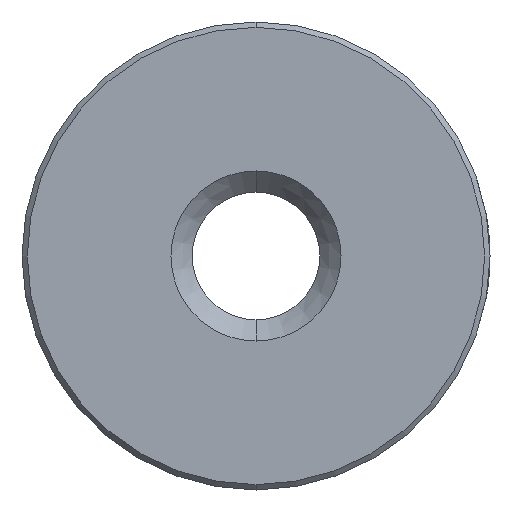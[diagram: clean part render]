
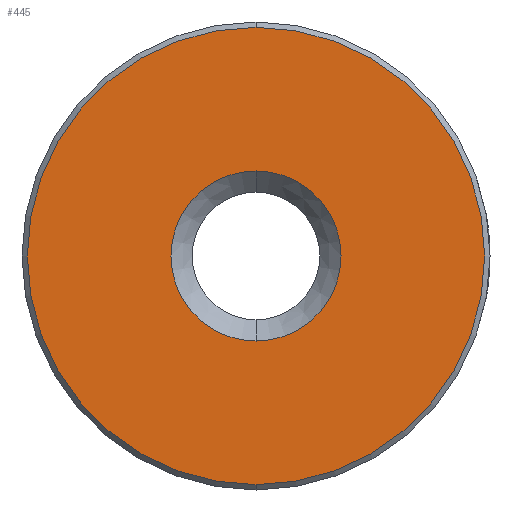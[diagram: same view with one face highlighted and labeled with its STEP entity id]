
A CAD part, front view. The second image highlights one B-rep face of the part: STEP entity #445.
In plain terms, the highlighted planar face has unit normal (0, -1, 0).
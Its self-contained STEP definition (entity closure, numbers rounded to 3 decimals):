
#9 = AXIS2_PLACEMENT_3D ( 'NONE', #702, #56, #923 ) ;
#43 = CARTESIAN_POINT ( 'NONE',  ( 0., 0., -11. ) ) ;
#52 = ORIENTED_EDGE ( 'NONE', *, *, #363, .T. ) ;
#56 = DIRECTION ( 'NONE',  ( 0., -1., 0. ) ) ;
#58 = VERTEX_POINT ( 'NONE', #888 ) ;
#121 = ORIENTED_EDGE ( 'NONE', *, *, #662, .T. ) ;
#192 = DIRECTION ( 'NONE',  ( 0., 1., 0. ) ) ;
#195 = EDGE_CURVE ( 'NONE', #950, #58, #496, .T. ) ;
#200 = AXIS2_PLACEMENT_3D ( 'NONE', #327, #887, #957 ) ;
#250 = VERTEX_POINT ( 'NONE', #698 ) ;
#276 = ORIENTED_EDGE ( 'NONE', *, *, #195, .T. ) ;
#292 = CARTESIAN_POINT ( 'NONE',  ( 0., 0., -11. ) ) ;
#321 = AXIS2_PLACEMENT_3D ( 'NONE', #43, #192, #671 ) ;
#327 = CARTESIAN_POINT ( 'NONE',  ( 0., 0., -11. ) ) ;
#331 = CIRCLE ( 'NONE', #9, 10.75 ) ;
#360 = CIRCLE ( 'NONE', #200, 4. ) ;
#363 = EDGE_CURVE ( 'NONE', #58, #950, #331, .T. ) ;
#445 = ADVANCED_FACE ( 'NONE', ( #553, #724 ), #454, .T. ) ;
#454 = PLANE ( 'NONE',  #601 ) ;
#465 = DIRECTION ( 'NONE',  ( 0., -1., 0. ) ) ;
#496 = CIRCLE ( 'NONE', #614, 10.75 ) ;
#542 = CIRCLE ( 'NONE', #321, 4. ) ;
#553 = FACE_OUTER_BOUND ( 'NONE', #639, .T. ) ;
#601 = AXIS2_PLACEMENT_3D ( 'NONE', #1005, #784, #621 ) ;
#614 = AXIS2_PLACEMENT_3D ( 'NONE', #292, #465, #1001 ) ;
#621 = DIRECTION ( 'NONE',  ( 0., 0., -1. ) ) ;
#639 = EDGE_LOOP ( 'NONE', ( #52, #276 ) ) ;
#662 = EDGE_CURVE ( 'NONE', #250, #952, #360, .T. ) ;
#671 = DIRECTION ( 'NONE',  ( 0., 0., -1. ) ) ;
#688 = CARTESIAN_POINT ( 'NONE',  ( 0., 0., -21.75 ) ) ;
#698 = CARTESIAN_POINT ( 'NONE',  ( 0., 0., -15. ) ) ;
#702 = CARTESIAN_POINT ( 'NONE',  ( 0., 0., -11. ) ) ;
#724 = FACE_BOUND ( 'NONE', #783, .T. ) ;
#746 = ORIENTED_EDGE ( 'NONE', *, *, #845, .T. ) ;
#783 = EDGE_LOOP ( 'NONE', ( #121, #746 ) ) ;
#784 = DIRECTION ( 'NONE',  ( 0., -1., 0. ) ) ;
#845 = EDGE_CURVE ( 'NONE', #952, #250, #542, .T. ) ;
#887 = DIRECTION ( 'NONE',  ( 0., 1., 0. ) ) ;
#888 = CARTESIAN_POINT ( 'NONE',  ( 0., 0., -0.25 ) ) ;
#899 = CARTESIAN_POINT ( 'NONE',  ( 0., 0., -7. ) ) ;
#923 = DIRECTION ( 'NONE',  ( 0., 0., -1. ) ) ;
#950 = VERTEX_POINT ( 'NONE', #688 ) ;
#952 = VERTEX_POINT ( 'NONE', #899 ) ;
#957 = DIRECTION ( 'NONE',  ( 0., 0., -1. ) ) ;
#1001 = DIRECTION ( 'NONE',  ( 0., 0., -1. ) ) ;
#1005 = CARTESIAN_POINT ( 'NONE',  ( 0., 0., -11. ) ) ;
